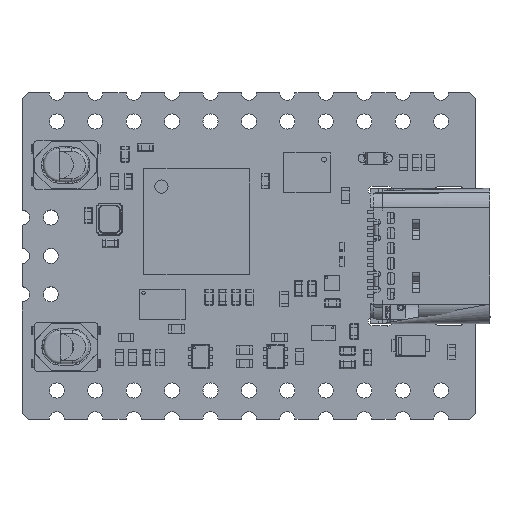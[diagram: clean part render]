
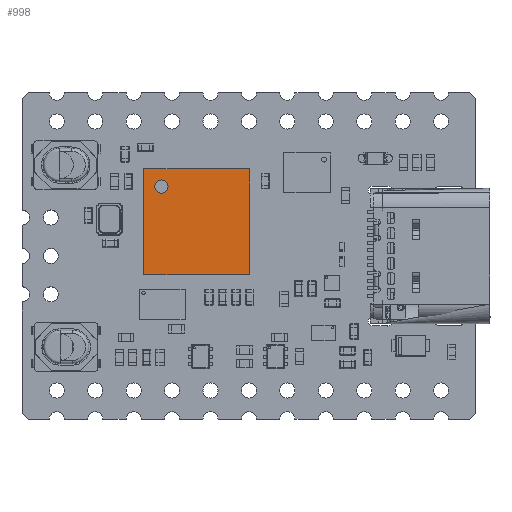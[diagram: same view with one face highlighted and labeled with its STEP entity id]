
A CAD part, top view. The second image highlights one B-rep face of the part: STEP entity #998.
In plain terms, the highlighted planar face has unit normal (0, 0, 1).
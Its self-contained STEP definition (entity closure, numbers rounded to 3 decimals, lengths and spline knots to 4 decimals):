
#934 = VERTEX_POINT('',#935);
#935 = CARTESIAN_POINT('',(8.05,9.55,0.6));
#950 = VERTEX_POINT('',#951);
#951 = CARTESIAN_POINT('',(8.05,16.55,0.6));
#957 = EDGE_CURVE('',#934,#950,#958,.T.);
#958 = LINE('',#959,#960);
#959 = CARTESIAN_POINT('',(8.05,9.55,0.6));
#960 = VECTOR('',#961,1.);
#961 = DIRECTION('',(0.,1.,0.));
#980 = EDGE_CURVE('',#934,#981,#983,.T.);
#981 = VERTEX_POINT('',#982);
#982 = CARTESIAN_POINT('',(15.05,9.55,0.6));
#983 = LINE('',#984,#985);
#984 = CARTESIAN_POINT('',(8.05,9.55,0.6));
#985 = VECTOR('',#986,1.);
#986 = DIRECTION('',(1.,0.,0.));
#998 = ADVANCED_FACE('',(#999,#1017),#1028,.T.);
#999 = FACE_BOUND('',#1000,.T.);
#1000 = EDGE_LOOP('',(#1001,#1002,#1003,#1011));
#1001 = ORIENTED_EDGE('',*,*,#957,.F.);
#1002 = ORIENTED_EDGE('',*,*,#980,.T.);
#1003 = ORIENTED_EDGE('',*,*,#1004,.T.);
#1004 = EDGE_CURVE('',#981,#1005,#1007,.T.);
#1005 = VERTEX_POINT('',#1006);
#1006 = CARTESIAN_POINT('',(15.05,16.55,0.6));
#1007 = LINE('',#1008,#1009);
#1008 = CARTESIAN_POINT('',(15.05,9.55,0.6));
#1009 = VECTOR('',#1010,1.);
#1010 = DIRECTION('',(0.,1.,0.));
#1011 = ORIENTED_EDGE('',*,*,#1012,.F.);
#1012 = EDGE_CURVE('',#950,#1005,#1013,.T.);
#1013 = LINE('',#1014,#1015);
#1014 = CARTESIAN_POINT('',(8.05,16.55,0.6));
#1015 = VECTOR('',#1016,1.);
#1016 = DIRECTION('',(1.,0.,0.));
#1017 = FACE_BOUND('',#1018,.T.);
#1018 = EDGE_LOOP('',(#1019));
#1019 = ORIENTED_EDGE('',*,*,#1020,.F.);
#1020 = EDGE_CURVE('',#1021,#1021,#1023,.T.);
#1021 = VERTEX_POINT('',#1022);
#1022 = CARTESIAN_POINT('',(9.6542,15.3833,0.6));
#1023 = CIRCLE('',#1024,0.4375);
#1024 = AXIS2_PLACEMENT_3D('',#1025,#1026,#1027);
#1025 = CARTESIAN_POINT('',(9.2167,15.3833,0.6));
#1026 = DIRECTION('',(0.,-0.,1.));
#1027 = DIRECTION('',(1.,0.,0.));
#1028 = PLANE('',#1029);
#1029 = AXIS2_PLACEMENT_3D('',#1030,#1031,#1032);
#1030 = CARTESIAN_POINT('',(8.05,9.55,0.6));
#1031 = DIRECTION('',(0.,0.,1.));
#1032 = DIRECTION('',(1.,0.,0.));
